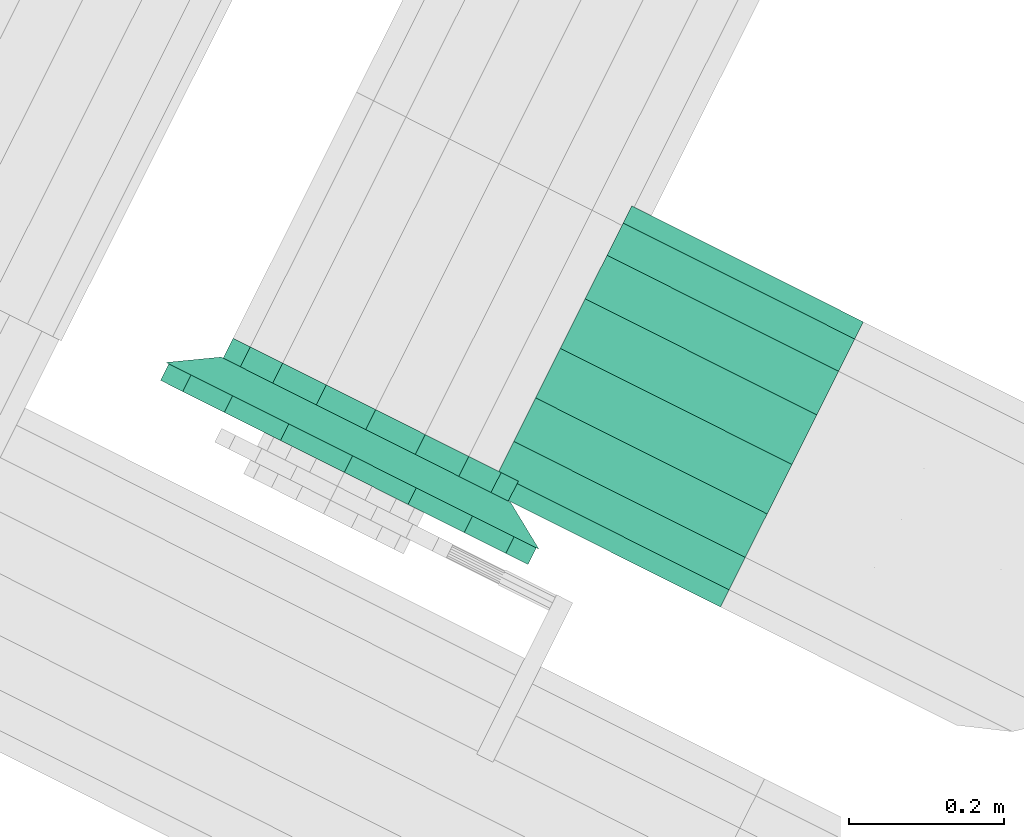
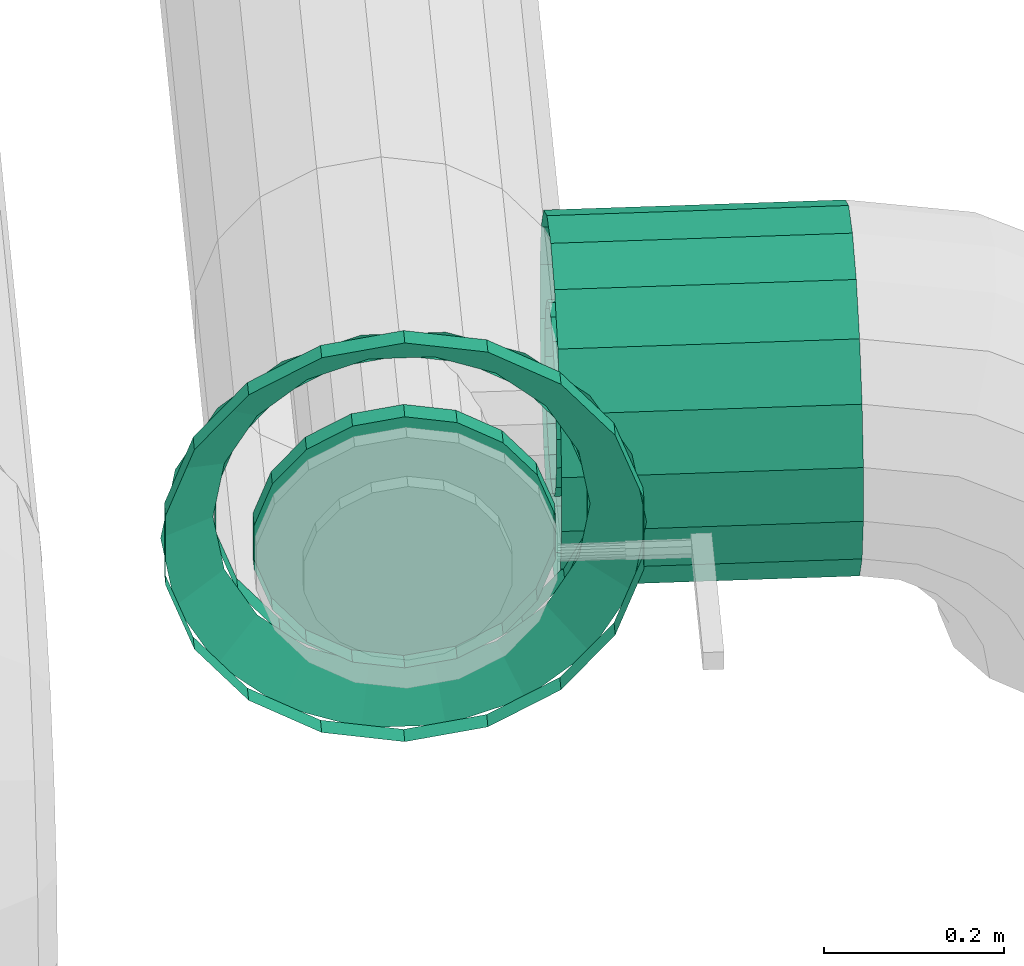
# One storey, part 79 of 152: 2 flow segments, 1 flow fitting.
"""IFC2X3 building model written with IfcOpenShell, lengths in metres."""

from ifc_helpers import new_model, si_unit, derived_unit, direction, frame, origin, place, context, subcontext, project, spatial, face_set, surface_model, source, transform, mapped, material, type_object, type_shapes, element, save


model = new_model("IFC2X3")

# Units and contexts
model_context = context("Model", 3, precision=5.2338327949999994e-05, world=origin(), true_north=direction((0.0, 1.0)))
body_context = subcontext(model_context, "Body", "Model", "MODEL_VIEW")
ifc_project = project(units=[si_unit("LENGTHUNIT", "METRE"), si_unit("AREAUNIT", "SQUARE_METRE"), si_unit("VOLUMEUNIT", "CUBIC_METRE"), si_unit("MASSUNIT", "GRAM", prefix="KILO"), si_unit("PLANEANGLEUNIT", "RADIAN"), derived_unit("THERMALTRANSMITTANCEUNIT", [(si_unit("MASSUNIT", "GRAM", prefix="KILO"), 1), (si_unit("THERMODYNAMICTEMPERATUREUNIT", "KELVIN"), -1), (si_unit("TIMEUNIT", "SECOND"), -3)])], contexts=[model_context])

# Site, building, storey
site_placement = place(None, frame((0.0, 0.0, 0.0), z_axis=(0.0, 0.0, 1.0), x_axis=(0.8939966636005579, -0.4480736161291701, 0.0)))
site = spatial("IfcSite", under=ifc_project, at=site_placement, Name="Default", CompositionType="ELEMENT")
building_placement = place(site_placement, origin())
building = spatial("IfcBuilding", under=site, at=building_placement, CompositionType="ELEMENT")
storey_placement = place(building_placement, frame((0.0, 0.0, 2.7499999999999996)))
storey = spatial("IfcBuildingStorey", under=building, at=storey_placement, Name="1. Obergeschoss", CompositionType="ELEMENT", Elevation=2.7499999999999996)

# Flow segments
ifc_material = material(Name="IfcSurfaceStyle #1741")
distribution_element_type_1 = type_object("IfcDistributionElementType", Name="Stahlrohr nach DIN 2448 252547:Stahlrohr nach DIN 2448 252547", material=ifc_material)
shared_shape_1 = source(origin(), body_context, "Body", "SurfaceModel", [
    surface_model("IfcFaceBasedSurfaceModel", [(33.28652236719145, 9.21976352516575, 5.745190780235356), (33.28652236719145, 9.182295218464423, 5.738584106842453), (33.62177801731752, 9.182295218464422, 5.738584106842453), (33.62177801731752, 9.21976352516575, 5.745190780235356), (33.28652236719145, 9.149346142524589, 5.719560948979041), (33.62177801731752, 9.149346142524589, 5.719560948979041), (33.28652236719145, 9.124890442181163, 5.690415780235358), (33.62177801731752, 9.124890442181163, 5.690415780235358), (33.28652236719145, 9.111877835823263, 5.654663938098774), (33.62177801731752, 9.111877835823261, 5.65466393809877), (33.28652236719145, 9.111877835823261, 5.616617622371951), (33.62177801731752, 9.111877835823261, 5.6166176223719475), (33.28652236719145, 9.124890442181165, 5.58086578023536), (33.62177801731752, 9.124890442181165, 5.58086578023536), (33.28652236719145, 9.149346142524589, 5.551720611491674), (33.62177801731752, 9.149346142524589, 5.551720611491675), (33.28652236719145, 9.182295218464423, 5.5326974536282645), (33.62177801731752, 9.182295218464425, 5.532697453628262), (33.28652236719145, 9.21976352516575, 5.526090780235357), (33.62177801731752, 9.21976352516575, 5.526090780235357), (33.28652236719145, 9.257231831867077, 5.532697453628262), (33.62177801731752, 9.25723183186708, 5.53269745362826), (33.28652236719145, 9.290180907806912, 5.551720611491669), (33.62177801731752, 9.290180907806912, 5.551720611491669), (33.28652236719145, 9.314636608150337, 5.580865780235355), (33.62177801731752, 9.314636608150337, 5.580865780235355), (33.28652236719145, 9.327649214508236, 5.616617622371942), (33.62177801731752, 9.327649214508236, 5.61661762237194), (33.28652236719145, 9.32764921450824, 5.654663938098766), (33.62177801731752, 9.32764921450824, 5.654663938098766), (33.28652236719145, 9.314636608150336, 5.690415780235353), (33.62177801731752, 9.314636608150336, 5.690415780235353), (33.28652236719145, 9.29018090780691, 5.719560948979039), (33.62177801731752, 9.290180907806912, 5.719560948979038), (33.28652236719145, 9.25723183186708, 5.738584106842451), (33.62177801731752, 9.257231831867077, 5.738584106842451), (33.28652236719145, 9.21976352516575, 5.845190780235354), (33.28652236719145, 9.148093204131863, 5.832553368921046), (33.62177801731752, 9.148093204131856, 5.832553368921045), (33.62177801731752, 9.21976352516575, 5.845190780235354), (33.28652236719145, 9.085067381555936, 5.796165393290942), (33.62177801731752, 9.085067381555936, 5.796165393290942), (33.28652236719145, 9.03828790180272, 5.7404157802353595), (33.62177801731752, 9.03828790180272, 5.74041578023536), (33.28652236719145, 9.013397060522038, 5.672028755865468), (33.62177801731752, 9.01339706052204, 5.672028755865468), (33.28652236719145, 9.013397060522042, 5.599252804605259), (33.62177801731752, 9.013397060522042, 5.599252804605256), (33.28652236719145, 9.03828790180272, 5.530865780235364), (33.62177801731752, 9.03828790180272, 5.530865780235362), (33.28652236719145, 9.085067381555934, 5.475116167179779), (33.62177801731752, 9.085067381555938, 5.475116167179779), (33.28652236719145, 9.148093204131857, 5.438728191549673), (33.62177801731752, 9.148093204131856, 5.438728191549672), (33.28652236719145, 9.21976352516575, 5.426090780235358), (33.62177801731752, 9.21976352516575, 5.4260907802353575), (33.28652236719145, 9.291433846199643, 5.438728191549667), (33.62177801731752, 9.291433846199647, 5.438728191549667), (33.28652236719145, 9.354459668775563, 5.47511616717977), (33.62177801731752, 9.354459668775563, 5.47511616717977), (33.28652236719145, 9.401239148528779, 5.530865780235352), (33.62177801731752, 9.401239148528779, 5.530865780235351), (33.28652236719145, 9.42612998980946, 5.5992528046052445), (33.62177801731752, 9.426129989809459, 5.5992528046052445), (33.28652236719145, 9.42612998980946, 5.672028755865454), (33.62177801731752, 9.42612998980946, 5.672028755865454), (33.28652236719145, 9.401239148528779, 5.740415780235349), (33.62177801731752, 9.401239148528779, 5.74041578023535), (33.28652236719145, 9.354459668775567, 5.7961653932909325), (33.62177801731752, 9.354459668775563, 5.7961653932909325), (33.28652236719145, 9.291433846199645, 5.832553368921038), (33.62177801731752, 9.291433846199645, 5.832553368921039)], [face_set([[[0, 1, 2, 3]], [[1, 4, 5, 2]], [[4, 6, 7, 5]], [[6, 8, 9, 7]], [[8, 10, 11, 9]], [[10, 12, 13, 11]], [[12, 14, 15, 13]], [[14, 16, 17, 15]], [[16, 18, 19, 17]], [[18, 20, 21, 19]], [[20, 22, 23, 21]], [[22, 24, 25, 23]], [[24, 26, 27, 25]], [[26, 28, 29, 27]], [[28, 30, 31, 29]], [[30, 32, 33, 31]], [[32, 34, 35, 33]], [[34, 0, 3, 35]], [[36, 37, 38, 39]], [[37, 40, 41, 38]], [[40, 42, 43, 41]], [[42, 44, 45, 43]], [[44, 46, 47, 45]], [[46, 48, 49, 47]], [[48, 50, 51, 49]], [[50, 52, 53, 51]], [[52, 54, 55, 53]], [[54, 56, 57, 55]], [[56, 58, 59, 57]], [[58, 60, 61, 59]], [[60, 62, 63, 61]], [[62, 64, 65, 63]], [[64, 66, 67, 65]], [[66, 68, 69, 67]], [[68, 70, 71, 69]], [[70, 36, 39, 71]]])]),
])
type_shapes(distribution_element_type_1, [shared_shape_1])
flow_segment_1_placement = place(storey_placement, frame((0.0, 0.0, -2.7499999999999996)))
element("IfcFlowSegment", 1, at=flow_segment_1_placement, inside=storey, type_object=distribution_element_type_1, material=ifc_material, Name="Stahlrohr nach DIN 2448", ObjectType="Stahlrohr nach DIN 2448", context=body_context, shape_type="MappedRepresentation", body=[
    mapped(shared_shape_1, transform((0.0, 0.0, 0.0), scale=1.0)),
])
distribution_element_type_2 = type_object("IfcDistributionElementType", Name="Stahlrohr nach DIN 2448 252828:Stahlrohr nach DIN 2448 252828", material=ifc_material)
shared_shape_2 = source(origin(), body_context, "Body", "SurfaceModel", [
    surface_model("IfcFaceBasedSurfaceModel", [(33.10852236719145, 9.04176352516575, 5.526090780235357), (33.145990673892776, 9.04176352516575, 5.53269745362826), (33.145990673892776, 9.012889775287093, 5.53269745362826), (33.10852236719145, 9.012889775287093, 5.526090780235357), (33.178939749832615, 9.04176352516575, 5.551720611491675), (33.178939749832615, 9.012889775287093, 5.551720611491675), (33.20339545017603, 9.04176352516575, 5.580865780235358), (33.20339545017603, 9.012889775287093, 5.580865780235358), (33.21640805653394, 9.04176352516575, 5.6166176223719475), (33.21640805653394, 9.012889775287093, 5.6166176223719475), (33.21640805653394, 9.04176352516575, 5.65466393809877), (33.21640805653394, 9.012889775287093, 5.65466393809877), (33.20339545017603, 9.04176352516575, 5.690415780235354), (33.20339545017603, 9.012889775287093, 5.690415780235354), (33.17893974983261, 9.04176352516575, 5.719560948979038), (33.17893974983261, 9.012889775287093, 5.719560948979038), (33.145990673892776, 9.04176352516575, 5.738584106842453), (33.145990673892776, 9.012889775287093, 5.738584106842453), (33.10852236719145, 9.04176352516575, 5.745190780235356), (33.10852236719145, 9.012889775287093, 5.745190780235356), (33.07105406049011, 9.04176352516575, 5.738584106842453), (33.07105406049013, 9.012889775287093, 5.738584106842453), (33.03810498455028, 9.04176352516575, 5.719560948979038), (33.03810498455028, 9.012889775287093, 5.719560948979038), (33.013649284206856, 9.04176352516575, 5.690415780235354), (33.013649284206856, 9.012889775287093, 5.690415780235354), (33.00063667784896, 9.04176352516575, 5.654663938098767), (33.00063667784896, 9.012889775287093, 5.654663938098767), (33.00063667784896, 9.04176352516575, 5.616617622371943), (33.00063667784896, 9.012889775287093, 5.616617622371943), (33.013649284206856, 9.04176352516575, 5.580865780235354), (33.013649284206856, 9.012889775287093, 5.580865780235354), (33.03810498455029, 9.04176352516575, 5.551720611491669), (33.03810498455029, 9.012889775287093, 5.551720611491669), (33.07105406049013, 9.04176352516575, 5.5326974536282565), (33.07105406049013, 9.012889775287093, 5.5326974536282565), (33.10852236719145, 9.04176352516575, 5.426090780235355), (33.18019268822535, 9.04176352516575, 5.43872819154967), (33.18019268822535, 9.012889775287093, 5.43872819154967), (33.10852236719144, 9.012889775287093, 5.426090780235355), (33.24321851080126, 9.04176352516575, 5.475116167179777), (33.24321851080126, 9.012889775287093, 5.475116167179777), (33.28999799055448, 9.04176352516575, 5.5308657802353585), (33.28999799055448, 9.012889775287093, 5.5308657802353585), (33.314888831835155, 9.04176352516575, 5.599252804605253), (33.314888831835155, 9.012889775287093, 5.599252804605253), (33.314888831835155, 9.04176352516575, 5.672028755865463), (33.314888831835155, 9.012889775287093, 5.672028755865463), (33.28999799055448, 9.04176352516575, 5.7404157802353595), (33.28999799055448, 9.012889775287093, 5.7404157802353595), (33.243218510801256, 9.04176352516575, 5.796165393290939), (33.243218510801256, 9.012889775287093, 5.796165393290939), (33.18019268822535, 9.04176352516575, 5.832553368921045), (33.18019268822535, 9.012889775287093, 5.832553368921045), (33.10852236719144, 9.04176352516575, 5.845190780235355), (33.10852236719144, 9.012889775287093, 5.845190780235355), (33.03685204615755, 9.04176352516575, 5.832553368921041), (33.03685204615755, 9.012889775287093, 5.832553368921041), (32.97382622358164, 9.04176352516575, 5.796165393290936), (32.97382622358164, 9.012889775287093, 5.796165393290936), (32.927046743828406, 9.04176352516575, 5.740415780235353), (32.927046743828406, 9.012889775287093, 5.740415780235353), (32.90215590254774, 9.04176352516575, 5.672028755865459), (32.90215590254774, 9.012889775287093, 5.672028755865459), (32.902155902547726, 9.04176352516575, 5.599252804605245), (32.902155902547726, 9.012889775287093, 5.599252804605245), (32.92704674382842, 9.04176352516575, 5.530865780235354), (32.92704674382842, 9.012889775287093, 5.530865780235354), (32.97382622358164, 9.04176352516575, 5.475116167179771), (32.97382622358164, 9.012889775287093, 5.475116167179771), (33.03685204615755, 9.04176352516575, 5.438728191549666), (33.03685204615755, 9.012889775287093, 5.438728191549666)], [face_set([[[0, 1, 2, 3]], [[1, 4, 5, 2]], [[4, 6, 7, 5]], [[6, 8, 9, 7]], [[8, 10, 11, 9]], [[10, 12, 13, 11]], [[12, 14, 15, 13]], [[14, 16, 17, 15]], [[16, 18, 19, 17]], [[18, 20, 21, 19]], [[20, 22, 23, 21]], [[22, 24, 25, 23]], [[24, 26, 27, 25]], [[26, 28, 29, 27]], [[28, 30, 31, 29]], [[30, 32, 33, 31]], [[32, 34, 35, 33]], [[34, 0, 3, 35]], [[36, 37, 38, 39]], [[37, 40, 41, 38]], [[40, 42, 43, 41]], [[42, 44, 45, 43]], [[44, 46, 47, 45]], [[46, 48, 49, 47]], [[48, 50, 51, 49]], [[50, 52, 53, 51]], [[52, 54, 55, 53]], [[54, 56, 57, 55]], [[56, 58, 59, 57]], [[58, 60, 61, 59]], [[60, 62, 63, 61]], [[62, 64, 65, 63]], [[64, 66, 67, 65]], [[66, 68, 69, 67]], [[68, 70, 71, 69]], [[70, 36, 39, 71]]])]),
])
type_shapes(distribution_element_type_2, [shared_shape_2])
flow_segment_2_placement = place(storey_placement, frame((0.0, 0.0, -2.7499999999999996)))
element("IfcFlowSegment", 2, at=flow_segment_2_placement, inside=storey, type_object=distribution_element_type_2, material=ifc_material, Name="Stahlrohr nach DIN 2448", ObjectType="Stahlrohr nach DIN 2448", context=body_context, shape_type="MappedRepresentation", body=[
    mapped(shared_shape_2, transform((0.0, 0.0, 0.0), scale=1.0)),
])

# Flow fitting
distribution_element_type_3 = type_object("IfcDistributionElementType", Name="Flansch 253175:Flansch 253175", material=ifc_material)
shared_shape_3 = source(origin(), body_context, "Body", "SurfaceModel", [
    surface_model("IfcFaceBasedSurfaceModel", [(33.21807236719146, 9.012889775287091, 5.635640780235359), (33.21146569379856, 9.012889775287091, 5.673109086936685), (33.218936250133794, 8.974889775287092, 5.675828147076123), (33.22602236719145, 8.974889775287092, 5.635640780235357), (33.19244253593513, 9.012889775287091, 5.706058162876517), (33.19853258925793, 8.974889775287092, 5.711168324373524), (33.163297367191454, 9.012889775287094, 5.730513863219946), (33.16727236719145, 8.974889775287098, 5.737398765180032), (33.12754552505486, 9.0128897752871, 5.743526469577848), (33.12892602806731, 8.974889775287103, 5.751355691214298), (33.08949920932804, 9.012889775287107, 5.743526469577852), (33.08811870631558, 8.974889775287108, 5.751355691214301), (33.053747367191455, 9.012889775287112, 5.730513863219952), (33.04977236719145, 8.974889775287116, 5.737398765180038), (33.024602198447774, 9.012889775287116, 5.70605816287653), (33.01851214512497, 8.97488977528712, 5.711168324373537), (33.005579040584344, 9.012889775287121, 5.673109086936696), (32.99810848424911, 8.974889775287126, 5.675828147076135), (32.99897236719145, 9.012889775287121, 5.635640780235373), (32.99102236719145, 8.974889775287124, 5.635640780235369), (33.005579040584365, 9.012889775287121, 5.598172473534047), (32.9981084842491, 8.974889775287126, 5.5954534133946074), (33.02460219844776, 9.012889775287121, 5.565223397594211), (33.018512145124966, 8.974889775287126, 5.560113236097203), (33.053747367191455, 9.012889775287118, 5.540767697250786), (33.04977236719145, 8.974889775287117, 5.533882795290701), (33.08949920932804, 9.01288977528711, 5.527755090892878), (33.08811870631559, 8.974889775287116, 5.519925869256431), (33.12754552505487, 9.012889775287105, 5.527755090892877), (33.12892602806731, 8.97488977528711, 5.51992586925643), (33.163297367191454, 9.0128897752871, 5.540767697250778), (33.16727236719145, 8.974889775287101, 5.533882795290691), (33.192442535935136, 9.012889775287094, 5.565223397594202), (33.19853258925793, 8.9748897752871, 5.560113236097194), (33.21146569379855, 9.012889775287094, 5.598172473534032), (33.2189362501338, 8.974889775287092, 5.595453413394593), (33.10852236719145, 8.974889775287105, 5.805640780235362), (33.05037894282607, 8.974889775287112, 5.795388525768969), (33.05037894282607, 8.950889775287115, 5.795388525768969), (33.10852236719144, 8.950889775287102, 5.805640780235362), (32.99924847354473, 8.97488977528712, 5.765868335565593), (32.99924847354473, 8.95088977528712, 5.765868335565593), (32.961298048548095, 8.97488977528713, 5.720640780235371), (32.961298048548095, 8.950889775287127, 5.720640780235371), (32.94110504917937, 8.974889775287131, 5.6651609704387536), (32.94110504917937, 8.950889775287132, 5.6651609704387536), (32.94110504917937, 8.974889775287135, 5.6061205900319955), (32.94110504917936, 8.950889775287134, 5.606120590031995), (32.96129804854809, 8.97488977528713, 5.550640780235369), (32.96129804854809, 8.95088977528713, 5.55064078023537), (32.99924847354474, 8.974889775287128, 5.505413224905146), (32.99924847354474, 8.950889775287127, 5.505413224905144), (33.05037894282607, 8.97488977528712, 5.475893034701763), (33.05037894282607, 8.95088977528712, 5.475893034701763), (33.10852236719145, 8.974889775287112, 5.465640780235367), (33.10852236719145, 8.950889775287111, 5.465640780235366), (33.16666579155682, 8.974889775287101, 5.475893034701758), (33.16666579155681, 8.950889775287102, 5.475893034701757), (33.21779626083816, 8.974889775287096, 5.505413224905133), (33.21779626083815, 8.950889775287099, 5.505413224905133), (33.2557466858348, 8.97488977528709, 5.550640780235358), (33.2557466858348, 8.950889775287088, 5.550640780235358), (33.27593968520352, 8.974889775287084, 5.606120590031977), (33.27593968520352, 8.950889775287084, 5.606120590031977), (33.275939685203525, 8.974889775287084, 5.665160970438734), (33.27593968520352, 8.950889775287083, 5.665160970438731), (33.2557466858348, 8.974889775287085, 5.720640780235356), (33.2557466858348, 8.950889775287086, 5.720640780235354), (33.21779626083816, 8.974889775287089, 5.765868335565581), (33.21779626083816, 8.950889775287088, 5.765868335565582), (33.16666579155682, 8.974889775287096, 5.795388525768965), (33.16666579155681, 8.950889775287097, 5.7953885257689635), (33.10852236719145, 8.974889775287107, 5.635640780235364), (33.318072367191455, 9.012889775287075, 5.635640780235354), (33.30543495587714, 9.012889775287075, 5.707311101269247), (33.36223937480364, 8.974889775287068, 5.727986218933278), (33.37852236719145, 8.974889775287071, 5.635640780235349), (33.26904698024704, 9.012889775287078, 5.770336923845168), (33.315354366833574, 8.974889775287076, 5.809193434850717), (33.21329736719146, 9.01288977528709, 5.817116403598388), (33.243522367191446, 8.974889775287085, 5.869467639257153), (33.144910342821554, 9.012889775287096, 5.84200724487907), (33.155407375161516, 8.974889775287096, 5.901538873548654), (33.07213439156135, 9.012889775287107, 5.842007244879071), (33.06163735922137, 8.97488977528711, 5.901538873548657), (33.00374736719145, 9.012889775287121, 5.8171164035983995), (32.97352236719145, 8.974889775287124, 5.869467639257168), (32.94799775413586, 9.012889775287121, 5.770336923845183), (32.901690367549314, 8.974889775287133, 5.809193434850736), (32.91160977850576, 9.012889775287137, 5.70731110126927), (32.854805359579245, 8.974889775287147, 5.727986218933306), (32.898972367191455, 9.012889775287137, 5.635640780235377), (32.838522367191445, 8.97488977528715, 5.635640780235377), (32.91160977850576, 9.012889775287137, 5.563970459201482), (32.85480535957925, 8.974889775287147, 5.543295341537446), (32.94799775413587, 9.01288977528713, 5.50094463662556), (32.90169036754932, 8.974889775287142, 5.46208812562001), (33.00374736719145, 9.012889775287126, 5.454165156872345), (32.97352236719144, 8.974889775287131, 5.4018139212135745), (33.07213439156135, 9.01288977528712, 5.42927431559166), (33.061637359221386, 8.974889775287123, 5.369742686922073), (33.14491034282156, 9.012889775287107, 5.429274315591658), (33.15540737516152, 8.97488977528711, 5.369742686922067), (33.21329736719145, 9.012889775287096, 5.4541651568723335), (33.243522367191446, 8.974889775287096, 5.40181392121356), (33.26904698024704, 9.012889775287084, 5.500944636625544), (33.315354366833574, 8.974889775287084, 5.462088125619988), (33.305434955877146, 9.012889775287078, 5.563970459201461), (33.36223937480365, 8.974889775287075, 5.543295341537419), (33.10852236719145, 8.974889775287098, 5.90564078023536), (33.01617692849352, 8.974889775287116, 5.889357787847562), (33.01617692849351, 8.950889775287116, 5.889357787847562), (33.10852236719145, 8.950889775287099, 5.905640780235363), (32.93496971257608, 8.974889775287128, 5.842472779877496), (32.93496971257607, 8.950889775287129, 5.842472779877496), (32.87469550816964, 8.97488977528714, 5.770640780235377), (32.87469550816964, 8.95088977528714, 5.770640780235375), (32.84262427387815, 8.974889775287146, 5.6825257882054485), (32.84262427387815, 8.950889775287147, 5.682525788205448), (32.84262427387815, 8.974889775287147, 5.588755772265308), (32.84262427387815, 8.95088977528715, 5.588755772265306), (32.87469550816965, 8.974889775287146, 5.500640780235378), (32.87469550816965, 8.950889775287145, 5.500640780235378), (32.934969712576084, 8.974889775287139, 5.4288087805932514), (32.934969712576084, 8.950889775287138, 5.428808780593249), (33.01617692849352, 8.97488977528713, 5.381923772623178), (33.016176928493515, 8.950889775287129, 5.381923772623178), (33.10852236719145, 8.974889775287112, 5.365640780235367), (33.10852236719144, 8.950889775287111, 5.365640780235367), (33.20086780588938, 8.974889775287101, 5.381923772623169), (33.20086780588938, 8.9508897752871, 5.381923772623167), (33.28207502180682, 8.974889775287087, 5.428808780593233), (33.28207502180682, 8.950889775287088, 5.428808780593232), (33.34234922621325, 8.97488977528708, 5.500640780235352), (33.342349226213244, 8.950889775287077, 5.500640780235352), (33.37442046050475, 8.974889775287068, 5.588755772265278), (33.374420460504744, 8.950889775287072, 5.5887557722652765), (33.37442046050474, 8.974889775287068, 5.682525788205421), (33.37442046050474, 8.950889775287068, 5.682525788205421), (33.34234922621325, 8.974889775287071, 5.77064078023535), (33.342349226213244, 8.950889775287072, 5.770640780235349), (33.28207502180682, 8.97488977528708, 5.842472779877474), (33.282075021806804, 8.950889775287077, 5.842472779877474), (33.200867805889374, 8.97488977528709, 5.8893577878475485), (33.200867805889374, 8.950889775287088, 5.889357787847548)], [face_set([[[0, 1, 2, 3]], [[1, 4, 5, 2]], [[4, 6, 7, 5]], [[6, 8, 9, 7]], [[8, 10, 11, 9]], [[10, 12, 13, 11]], [[12, 14, 15, 13]], [[14, 16, 17, 15]], [[16, 18, 19, 17]], [[18, 20, 21, 19]], [[20, 22, 23, 21]], [[22, 24, 25, 23]], [[24, 26, 27, 25]], [[26, 28, 29, 27]], [[28, 30, 31, 29]], [[30, 32, 33, 31]], [[32, 34, 35, 33]], [[34, 0, 3, 35]], [[36, 37, 38, 39]], [[37, 40, 41, 38]], [[40, 42, 43, 41]], [[42, 44, 45, 43]], [[44, 46, 47, 45]], [[46, 48, 49, 47]], [[48, 50, 51, 49]], [[50, 52, 53, 51]], [[52, 54, 55, 53]], [[54, 56, 57, 55]], [[56, 58, 59, 57]], [[58, 60, 61, 59]], [[60, 62, 63, 61]], [[62, 64, 65, 63]], [[64, 66, 67, 65]], [[66, 68, 69, 67]], [[68, 70, 71, 69]], [[70, 36, 39, 71]], [[72, 37, 36]], [[72, 40, 37]], [[72, 42, 40]], [[72, 44, 42]], [[72, 46, 44]], [[72, 48, 46]], [[72, 50, 48]], [[72, 52, 50]], [[72, 54, 52]], [[72, 56, 54]], [[72, 58, 56]], [[72, 60, 58]], [[72, 62, 60]], [[72, 64, 62]], [[72, 66, 64]], [[72, 68, 66]], [[72, 70, 68]], [[72, 36, 70]], [[73, 74, 75, 76]], [[74, 77, 78, 75]], [[77, 79, 80, 78]], [[79, 81, 82, 80]], [[81, 83, 84, 82]], [[83, 85, 86, 84]], [[85, 87, 88, 86]], [[87, 89, 90, 88]], [[89, 91, 92, 90]], [[91, 93, 94, 92]], [[93, 95, 96, 94]], [[95, 97, 98, 96]], [[97, 99, 100, 98]], [[99, 101, 102, 100]], [[101, 103, 104, 102]], [[103, 105, 106, 104]], [[105, 107, 108, 106]], [[107, 73, 76, 108]], [[109, 110, 111, 112]], [[110, 113, 114, 111]], [[113, 115, 116, 114]], [[115, 117, 118, 116]], [[117, 119, 120, 118]], [[119, 121, 122, 120]], [[121, 123, 124, 122]], [[123, 125, 126, 124]], [[125, 127, 128, 126]], [[127, 129, 130, 128]], [[129, 131, 132, 130]], [[131, 133, 134, 132]], [[133, 135, 136, 134]], [[135, 137, 138, 136]], [[137, 139, 140, 138]], [[139, 141, 142, 140]], [[141, 143, 144, 142]], [[143, 109, 112, 144]]])]),
])
type_shapes(distribution_element_type_3, [shared_shape_3])
flow_fitting_placement = place(storey_placement, frame((0.0, 0.0, -2.7499999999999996)))
element("IfcFlowFitting", 3, at=flow_fitting_placement, inside=storey, type_object=distribution_element_type_3, material=ifc_material, Name="Flansch", ObjectType="Flansch", context=body_context, shape_type="MappedRepresentation", body=[
    mapped(shared_shape_3, transform((0.0, 0.0, 0.0), scale=1.0)),
])

save(model, "model.ifc")
